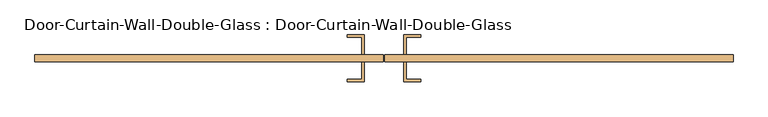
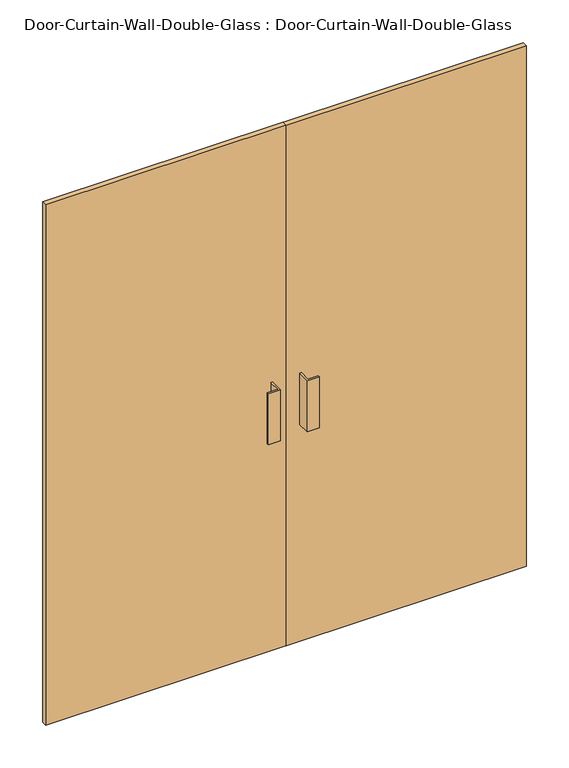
"""IFC4 building model written with IfcOpenShell, lengths in millimetres: door geometry, Door-Curtain-Wall-Double-Glass : Door-Curtain-Wall-Double-Glass."""

from ifc_helpers import new_model, si_unit, frame, origin, origin_with_axes, place, context, project, spatial, polyline, outline, extrude, source, transform, mapped, element, save


def door_curtain_wall_double_glass_door_curtain_wall_double_bdbd88c7(model_context):
    return source(origin(), model_context, "Body", "SweptSolid", [
        extrude(outline(polyline([(-1.6143999, 31.75), (-903.8221115, 31.75), (-903.8221115, 50.8), (-1.6143999, 50.8), (-1.6143999, 31.75)])), origin_with_axes(), (0.0, 0.0, 1.0), 2070.1),
        extrude(outline(polyline([(903.8221115, 31.75), (1.5606001, 31.75), (1.5606001, 50.8), (903.8221115, 50.8), (903.8221115, 31.75)])), origin_with_axes(), (0.0, 0.0, 1.0), 2070.1),
        extrude(outline(polyline([(-50.8268999, 101.6), (-50.8268999, 50.8), (-57.1768999, 50.8), (-57.1768999, 95.25), (-95.2768999, 95.25), (-95.2768999, 101.6), (-50.8268999, 101.6)])), frame((0.0, 0.0, 863.6), z_axis=(0.0, 0.0, 1.0), x_axis=(1.0, 0.0, 0.0)), (0.0, 0.0, 1.0), 203.2),
        extrude(outline(polyline([(50.7731001, 101.6), (95.2231001, 101.6), (95.2231001, 95.25), (57.1231001, 95.25), (57.1231001, 50.8), (50.7731001, 50.8), (50.7731001, 101.6)])), frame((0.0, 0.0, 863.6), z_axis=(0.0, 0.0, 1.0), x_axis=(1.0, 0.0, 0.0)), (0.0, 0.0, 1.0), 203.2),
        extrude(outline(polyline([(-50.8268999, -19.05), (-95.2768999, -19.05), (-95.2768999, -12.7), (-57.1768999, -12.7), (-57.1768999, 31.75), (-50.8268999, 31.75), (-50.8268999, -19.05)])), frame((0.0, 0.0, 863.6), z_axis=(0.0, 0.0, 1.0), x_axis=(1.0, 0.0, 0.0)), (0.0, 0.0, 1.0), 203.2),
        extrude(outline(polyline([(50.7731001, -19.05), (50.7731001, 31.75), (57.1231001, 31.75), (57.1231001, -12.7), (95.2231001, -12.7), (95.2231001, -19.05), (50.7731001, -19.05)])), frame((0.0, 0.0, 863.6), z_axis=(0.0, 0.0, 1.0), x_axis=(1.0, 0.0, 0.0)), (0.0, 0.0, 1.0), 203.2),
    ])


if __name__ == "__main__":
    model = new_model("IFC4")
    model_context = context("Model", 3, world=origin())
    ifc_project = project(units=[si_unit("LENGTHUNIT", "METRE", prefix="MILLI")], contexts=[model_context])
    site = spatial("IfcSite", under=ifc_project)
    building = spatial("IfcBuilding", under=site)
    placement = place(None, origin())
    door_curtain_wall_double_glass_door_curtain_wall_double_shape = door_curtain_wall_double_glass_door_curtain_wall_double_bdbd88c7(model_context)
    element("IfcDoor", 1, ObjectType="Door-Curtain-Wall-Double-Glass : Door-Curtain-Wall-Double-Glass", at=placement, inside=building, context=model_context, shape_type="MappedRepresentation", body=[
        mapped(door_curtain_wall_double_glass_door_curtain_wall_double_shape, transform((0.0, 0.0, 0.0), x_axis=(1.0, 0.0, 0.0), y_axis=(0.0, 1.0, 0.0), z_axis=(0.0, 0.0, 1.0))),
    ])
    save(model, "model.ifc")
